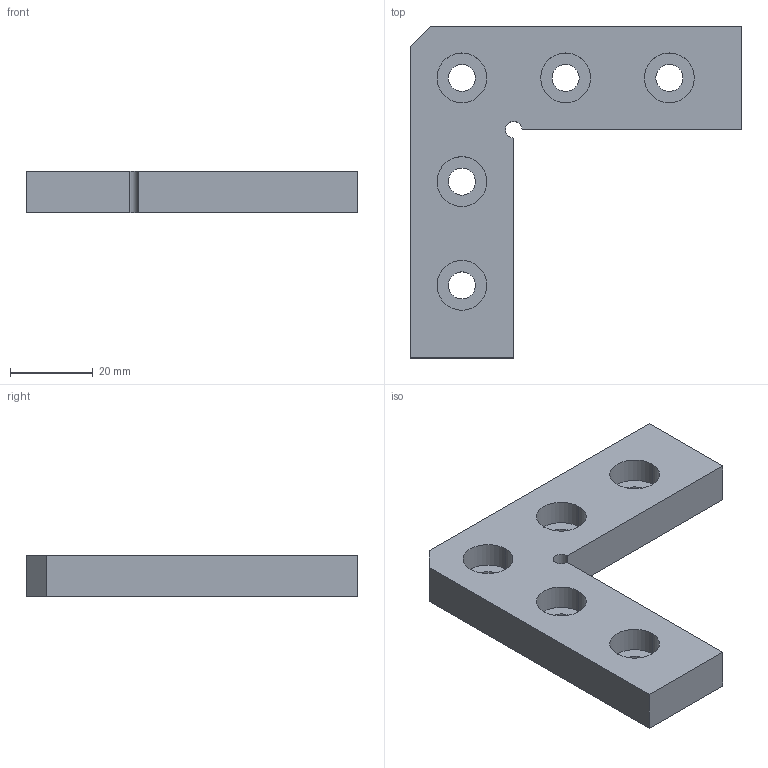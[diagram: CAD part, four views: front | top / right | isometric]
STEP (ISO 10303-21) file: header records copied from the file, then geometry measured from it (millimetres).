
FILE_DESCRIPTION(('CATIA V5 STEP Exchange'),'2;1');
FILE_NAME('D:\姚明阳\2、工装图纸\激光代表工装\AGZ090 激光打标机定位治具\pdf+stp\AGZ090.02_V1 定位角边.stp','2022-08-02T01:25:38+00:00',('none'),('none'),'CATIA Version 5 Release 21 GA (IN-10)','CATIA V5 STEP AP214','none');
FILE_SCHEMA(('AUTOMOTIVE_DESIGN { 1 0 10303 214 1 1 1 1 }'));
Length unit declared in the file: millimetre
Products named in the file (1): 定位角边
Bounding box: 80 x 80 x 10 mm (x, y, z)
Volume: 29474.2 mm3; surface area: 11138.7 mm2
Topology: 1 solids, 1 shells, 36 faces, 87 edges, 58 vertices
Faces by surface type: cylinder 22, plane 14
Entity records: 998 total; most frequent: ORIENTED_EDGE 174, CARTESIAN_POINT 167, DIRECTION 129, EDGE_CURVE 87, AXIS2_PLACEMENT_3D 66, VERTEX_POINT 58, EDGE_LOOP 51, CIRCLE 44
